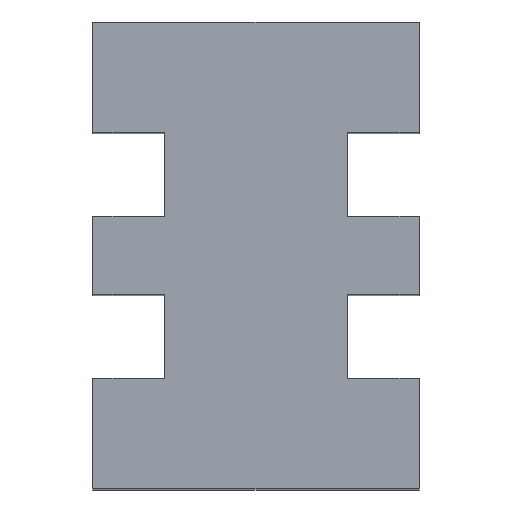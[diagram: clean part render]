
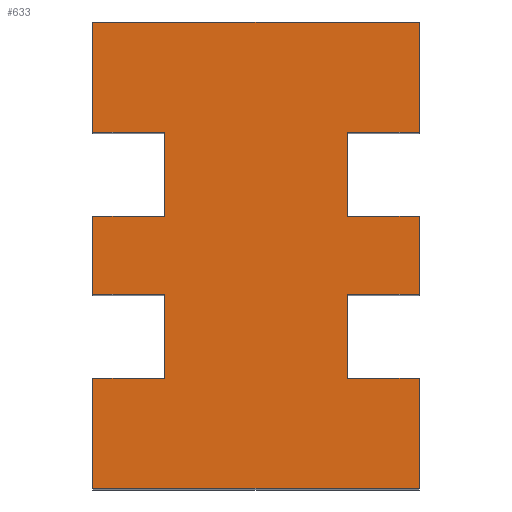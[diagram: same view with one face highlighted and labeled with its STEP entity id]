
A CAD part, top view. The second image highlights one B-rep face of the part: STEP entity #633.
In plain terms, the highlighted planar face has unit normal (0, 0, 1).
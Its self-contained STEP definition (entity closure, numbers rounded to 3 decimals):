
#3 = LINE ( 'NONE', #432, #35 ) ;
#8 = LINE ( 'NONE', #531, #379 ) ;
#9 = DIRECTION ( 'NONE',  ( -1., 0., 0. ) ) ;
#13 = VERTEX_POINT ( 'NONE', #38 ) ;
#15 = DIRECTION ( 'NONE',  ( 1., 0., 0. ) ) ;
#17 = EDGE_LOOP ( 'NONE', ( #393, #333, #404, #518, #336, #285, #663, #600, #319, #428, #253, #30, #213, #561, #312, #632, #211, #485, #721, #224 ) ) ;
#18 = LINE ( 'NONE', #479, #341 ) ;
#23 = DIRECTION ( 'NONE',  ( -1., 0., 0. ) ) ;
#29 = DIRECTION ( 'NONE',  ( 0., 1., 0. ) ) ;
#30 = ORIENTED_EDGE ( 'NONE', *, *, #395, .F. ) ;
#31 = LINE ( 'NONE', #594, #622 ) ;
#33 = DIRECTION ( 'NONE',  ( 1., 0., 0. ) ) ;
#35 = VECTOR ( 'NONE', #707, 1000. ) ;
#38 = CARTESIAN_POINT ( 'NONE',  ( 4.9, -6.6, 25.1 ) ) ;
#41 = VERTEX_POINT ( 'NONE', #667 ) ;
#48 = DIRECTION ( 'NONE',  ( 0., 1., 0. ) ) ;
#58 = CARTESIAN_POINT ( 'NONE',  ( -8.75, -12.5, 25.1 ) ) ;
#59 = EDGE_CURVE ( 'NONE', #420, #651, #252, .T. ) ;
#67 = CARTESIAN_POINT ( 'NONE',  ( -4.9, 2.1, 25.1 ) ) ;
#74 = DIRECTION ( 'NONE',  ( 1., 0., 0. ) ) ;
#76 = EDGE_CURVE ( 'NONE', #407, #629, #372, .T. ) ;
#81 = CARTESIAN_POINT ( 'NONE',  ( 8.75, 2.1, 25.1 ) ) ;
#86 = EDGE_CURVE ( 'NONE', #657, #366, #292, .T. ) ;
#88 = VECTOR ( 'NONE', #302, 1000. ) ;
#96 = PLANE ( 'NONE',  #431 ) ;
#105 = CARTESIAN_POINT ( 'NONE',  ( -8.75, -12.5, 25.1 ) ) ;
#107 = VERTEX_POINT ( 'NONE', #591 ) ;
#109 = EDGE_CURVE ( 'NONE', #425, #526, #18, .T. ) ;
#119 = EDGE_CURVE ( 'NONE', #316, #191, #31, .T. ) ;
#120 = VECTOR ( 'NONE', #74, 1000. ) ;
#139 = DIRECTION ( 'NONE',  ( 0., -1., 0. ) ) ;
#144 = VECTOR ( 'NONE', #689, 1000. ) ;
#152 = CARTESIAN_POINT ( 'NONE',  ( 4.9, -6.6, 25.1 ) ) ;
#153 = LINE ( 'NONE', #363, #411 ) ;
#154 = DIRECTION ( 'NONE',  ( -1., 0., 0. ) ) ;
#159 = CARTESIAN_POINT ( 'NONE',  ( -4.9, -6.6, 25.1 ) ) ;
#169 = VECTOR ( 'NONE', #214, 1000. ) ;
#181 = FACE_OUTER_BOUND ( 'NONE', #17, .T. ) ;
#183 = CARTESIAN_POINT ( 'NONE',  ( -8.75, 6.6, 25.1 ) ) ;
#187 = CARTESIAN_POINT ( 'NONE',  ( 4.9, 2.1, 25.1 ) ) ;
#191 = VERTEX_POINT ( 'NONE', #520 ) ;
#193 = CARTESIAN_POINT ( 'NONE',  ( 8.75, 2.1, 25.1 ) ) ;
#194 = EDGE_CURVE ( 'NONE', #315, #420, #512, .T. ) ;
#200 = LINE ( 'NONE', #226, #426 ) ;
#205 = CARTESIAN_POINT ( 'NONE',  ( 4.9, 6.6, 25.1 ) ) ;
#206 = VECTOR ( 'NONE', #33, 1000. ) ;
#211 = ORIENTED_EDGE ( 'NONE', *, *, #474, .T. ) ;
#213 = ORIENTED_EDGE ( 'NONE', *, *, #86, .F. ) ;
#214 = DIRECTION ( 'NONE',  ( -1., 0., 0. ) ) ;
#224 = ORIENTED_EDGE ( 'NONE', *, *, #620, .F. ) ;
#226 = CARTESIAN_POINT ( 'NONE',  ( 8.75, 6.6, 25.1 ) ) ;
#227 = CARTESIAN_POINT ( 'NONE',  ( -8.75, -6.6, 25.1 ) ) ;
#237 = LINE ( 'NONE', #608, #589 ) ;
#240 = CARTESIAN_POINT ( 'NONE',  ( -8.75, -12.5, 25.1 ) ) ;
#245 = EDGE_CURVE ( 'NONE', #425, #41, #470, .T. ) ;
#246 = LINE ( 'NONE', #193, #120 ) ;
#247 = VERTEX_POINT ( 'NONE', #528 ) ;
#252 = LINE ( 'NONE', #159, #668 ) ;
#253 = ORIENTED_EDGE ( 'NONE', *, *, #109, .T. ) ;
#265 = CARTESIAN_POINT ( 'NONE',  ( 0., 0., 25.1 ) ) ;
#285 = ORIENTED_EDGE ( 'NONE', *, *, #76, .T. ) ;
#292 = LINE ( 'NONE', #558, #482 ) ;
#296 = EDGE_CURVE ( 'NONE', #191, #592, #510, .T. ) ;
#302 = DIRECTION ( 'NONE',  ( 1., 0., 0. ) ) ;
#304 = EDGE_CURVE ( 'NONE', #627, #107, #488, .T. ) ;
#308 = DIRECTION ( 'NONE',  ( 0., -1., 0. ) ) ;
#312 = ORIENTED_EDGE ( 'NONE', *, *, #587, .T. ) ;
#313 = CARTESIAN_POINT ( 'NONE',  ( -4.9, -2.1, 25.1 ) ) ;
#315 = VERTEX_POINT ( 'NONE', #467 ) ;
#316 = VERTEX_POINT ( 'NONE', #67 ) ;
#319 = ORIENTED_EDGE ( 'NONE', *, *, #607, .F. ) ;
#330 = VECTOR ( 'NONE', #682, 1000. ) ;
#331 = DIRECTION ( 'NONE',  ( -1., 0., 0. ) ) ;
#333 = ORIENTED_EDGE ( 'NONE', *, *, #579, .F. ) ;
#335 = VECTOR ( 'NONE', #308, 1000. ) ;
#336 = ORIENTED_EDGE ( 'NONE', *, *, #546, .T. ) ;
#341 = VECTOR ( 'NONE', #364, 1000. ) ;
#342 = CARTESIAN_POINT ( 'NONE',  ( 8.75, -2.1, 25.1 ) ) ;
#355 = EDGE_CURVE ( 'NONE', #13, #247, #8, .T. ) ;
#358 = CARTESIAN_POINT ( 'NONE',  ( -4.9, -6.6, 25.1 ) ) ;
#363 = CARTESIAN_POINT ( 'NONE',  ( -8.75, 12.5, 25.1 ) ) ;
#364 = DIRECTION ( 'NONE',  ( 0., 1., 0. ) ) ;
#366 = VERTEX_POINT ( 'NONE', #187 ) ;
#372 = LINE ( 'NONE', #105, #88 ) ;
#378 = DIRECTION ( 'NONE',  ( 0., 0., -1. ) ) ;
#379 = VECTOR ( 'NONE', #15, 1000. ) ;
#393 = ORIENTED_EDGE ( 'NONE', *, *, #304, .T. ) ;
#395 = EDGE_CURVE ( 'NONE', #366, #526, #246, .T. ) ;
#396 = DIRECTION ( 'NONE',  ( 0., -1., 0. ) ) ;
#398 = EDGE_CURVE ( 'NONE', #702, #476, #153, .T. ) ;
#404 = ORIENTED_EDGE ( 'NONE', *, *, #59, .F. ) ;
#407 = VERTEX_POINT ( 'NONE', #421 ) ;
#411 = VECTOR ( 'NONE', #23, 1000. ) ;
#420 = VERTEX_POINT ( 'NONE', #358 ) ;
#421 = CARTESIAN_POINT ( 'NONE',  ( -8.75, -12.5, 25.1 ) ) ;
#425 = VERTEX_POINT ( 'NONE', #480 ) ;
#426 = VECTOR ( 'NONE', #331, 1000. ) ;
#428 = ORIENTED_EDGE ( 'NONE', *, *, #245, .F. ) ;
#431 = AXIS2_PLACEMENT_3D ( 'NONE', #265, #378, #154 ) ;
#432 = CARTESIAN_POINT ( 'NONE',  ( 8.75, -12.5, 25.1 ) ) ;
#436 = LINE ( 'NONE', #621, #712 ) ;
#438 = CARTESIAN_POINT ( 'NONE',  ( -8.75, 6.6, 25.1 ) ) ;
#467 = CARTESIAN_POINT ( 'NONE',  ( -8.75, -6.6, 25.1 ) ) ;
#470 = LINE ( 'NONE', #342, #144 ) ;
#474 = EDGE_CURVE ( 'NONE', #476, #592, #560, .T. ) ;
#476 = VERTEX_POINT ( 'NONE', #570 ) ;
#479 = CARTESIAN_POINT ( 'NONE',  ( 8.75, -12.5, 25.1 ) ) ;
#480 = CARTESIAN_POINT ( 'NONE',  ( 8.75, -2.1, 25.1 ) ) ;
#482 = VECTOR ( 'NONE', #509, 1000. ) ;
#485 = ORIENTED_EDGE ( 'NONE', *, *, #296, .F. ) ;
#488 = LINE ( 'NONE', #240, #529 ) ;
#490 = LINE ( 'NONE', #717, #206 ) ;
#498 = CARTESIAN_POINT ( 'NONE',  ( 8.75, 6.6, 25.1 ) ) ;
#504 = CARTESIAN_POINT ( 'NONE',  ( -8.75, -2.1, 25.1 ) ) ;
#509 = DIRECTION ( 'NONE',  ( 0., -1., 0. ) ) ;
#510 = LINE ( 'NONE', #183, #641 ) ;
#512 = LINE ( 'NONE', #227, #330 ) ;
#518 = ORIENTED_EDGE ( 'NONE', *, *, #194, .F. ) ;
#520 = CARTESIAN_POINT ( 'NONE',  ( -4.9, 6.6, 25.1 ) ) ;
#521 = EDGE_CURVE ( 'NONE', #664, #657, #200, .T. ) ;
#526 = VERTEX_POINT ( 'NONE', #81 ) ;
#528 = CARTESIAN_POINT ( 'NONE',  ( 8.75, -6.6, 25.1 ) ) ;
#529 = VECTOR ( 'NONE', #691, 1000. ) ;
#531 = CARTESIAN_POINT ( 'NONE',  ( 8.75, -6.6, 25.1 ) ) ;
#534 = EDGE_CURVE ( 'NONE', #629, #247, #237, .T. ) ;
#546 = EDGE_CURVE ( 'NONE', #315, #407, #436, .T. ) ;
#558 = CARTESIAN_POINT ( 'NONE',  ( 4.9, 6.6, 25.1 ) ) ;
#560 = LINE ( 'NONE', #58, #723 ) ;
#561 = ORIENTED_EDGE ( 'NONE', *, *, #521, .F. ) ;
#570 = CARTESIAN_POINT ( 'NONE',  ( -8.75, 12.5, 25.1 ) ) ;
#579 = EDGE_CURVE ( 'NONE', #651, #107, #606, .T. ) ;
#587 = EDGE_CURVE ( 'NONE', #664, #702, #3, .T. ) ;
#589 = VECTOR ( 'NONE', #29, 1000. ) ;
#591 = CARTESIAN_POINT ( 'NONE',  ( -8.75, -2.1, 25.1 ) ) ;
#592 = VERTEX_POINT ( 'NONE', #438 ) ;
#594 = CARTESIAN_POINT ( 'NONE',  ( -4.9, 6.6, 25.1 ) ) ;
#600 = ORIENTED_EDGE ( 'NONE', *, *, #355, .F. ) ;
#606 = LINE ( 'NONE', #504, #169 ) ;
#607 = EDGE_CURVE ( 'NONE', #41, #13, #624, .T. ) ;
#608 = CARTESIAN_POINT ( 'NONE',  ( 8.75, -12.5, 25.1 ) ) ;
#620 = EDGE_CURVE ( 'NONE', #627, #316, #490, .T. ) ;
#621 = CARTESIAN_POINT ( 'NONE',  ( -8.75, -12.5, 25.1 ) ) ;
#622 = VECTOR ( 'NONE', #48, 1000. ) ;
#624 = LINE ( 'NONE', #152, #335 ) ;
#627 = VERTEX_POINT ( 'NONE', #708 ) ;
#629 = VERTEX_POINT ( 'NONE', #687 ) ;
#632 = ORIENTED_EDGE ( 'NONE', *, *, #398, .T. ) ;
#633 = ADVANCED_FACE ( 'NONE', ( #181 ), #96, .F. ) ;
#641 = VECTOR ( 'NONE', #9, 1000. ) ;
#651 = VERTEX_POINT ( 'NONE', #313 ) ;
#657 = VERTEX_POINT ( 'NONE', #205 ) ;
#663 = ORIENTED_EDGE ( 'NONE', *, *, #534, .T. ) ;
#664 = VERTEX_POINT ( 'NONE', #498 ) ;
#667 = CARTESIAN_POINT ( 'NONE',  ( 4.9, -2.1, 25.1 ) ) ;
#668 = VECTOR ( 'NONE', #720, 1000. ) ;
#682 = DIRECTION ( 'NONE',  ( 1., 0., 0. ) ) ;
#687 = CARTESIAN_POINT ( 'NONE',  ( 8.75, -12.5, 25.1 ) ) ;
#689 = DIRECTION ( 'NONE',  ( -1., 0., 0. ) ) ;
#691 = DIRECTION ( 'NONE',  ( 0., -1., 0. ) ) ;
#702 = VERTEX_POINT ( 'NONE', #725 ) ;
#707 = DIRECTION ( 'NONE',  ( 0., 1., 0. ) ) ;
#708 = CARTESIAN_POINT ( 'NONE',  ( -8.75, 2.1, 25.1 ) ) ;
#712 = VECTOR ( 'NONE', #139, 1000. ) ;
#717 = CARTESIAN_POINT ( 'NONE',  ( -8.75, 2.1, 25.1 ) ) ;
#720 = DIRECTION ( 'NONE',  ( 0., 1., 0. ) ) ;
#721 = ORIENTED_EDGE ( 'NONE', *, *, #119, .F. ) ;
#723 = VECTOR ( 'NONE', #396, 1000. ) ;
#725 = CARTESIAN_POINT ( 'NONE',  ( 8.75, 12.5, 25.1 ) ) ;
